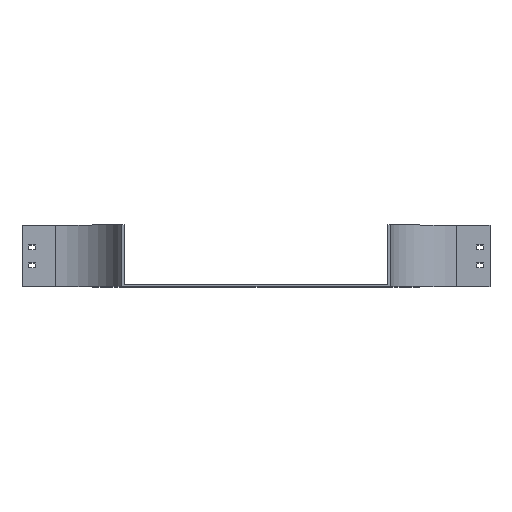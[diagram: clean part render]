
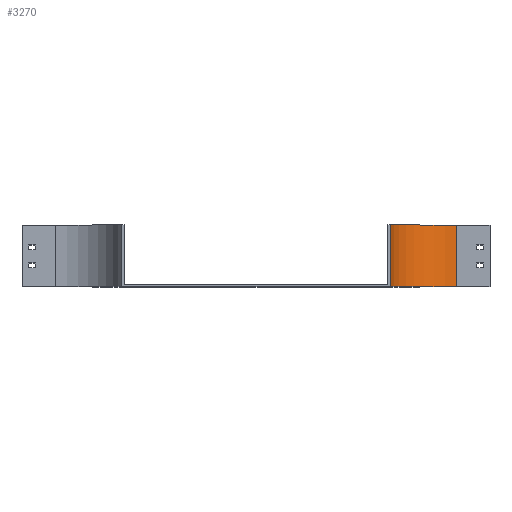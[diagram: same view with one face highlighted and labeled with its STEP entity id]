
A CAD part, top view. The second image highlights one B-rep face of the part: STEP entity #3270.
In plain terms, the highlighted cylindrical face has radius 100 mm (diameter 200 mm), a partial arc.
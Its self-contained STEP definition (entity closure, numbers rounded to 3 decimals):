
#148 = VERTEX_POINT ( 'NONE', #2102 ) ;
#180 = EDGE_CURVE ( 'NONE', #1491, #441, #1556, .T. ) ;
#212 = FACE_OUTER_BOUND ( 'NONE', #931, .T. ) ;
#219 = ORIENTED_EDGE ( 'NONE', *, *, #806, .T. ) ;
#239 = VECTOR ( 'NONE', #2646, 1000. ) ;
#264 = LINE ( 'NONE', #2394, #239 ) ;
#441 = VERTEX_POINT ( 'NONE', #2157 ) ;
#679 = DIRECTION ( 'NONE',  ( 0., -1., 0. ) ) ;
#769 = DIRECTION ( 'NONE',  ( 0., -1., 0. ) ) ;
#806 = EDGE_CURVE ( 'NONE', #148, #1491, #3689, .T. ) ;
#871 = EDGE_CURVE ( 'NONE', #148, #2655, #3384, .T. ) ;
#897 = CARTESIAN_POINT ( 'NONE',  ( -100., 0., 0. ) ) ;
#931 = EDGE_LOOP ( 'NONE', ( #2860, #3570, #2369, #219 ) ) ;
#1086 = CARTESIAN_POINT ( 'NONE',  ( 0., 92.5, -100. ) ) ;
#1399 = CARTESIAN_POINT ( 'NONE',  ( 0., 92.5, 0. ) ) ;
#1491 = VERTEX_POINT ( 'NONE', #897 ) ;
#1556 = CIRCLE ( 'NONE', #2348, 100. ) ;
#1866 = DIRECTION ( 'NONE',  ( 0., 0., -1. ) ) ;
#2102 = CARTESIAN_POINT ( 'NONE',  ( -100., 92.5, 0. ) ) ;
#2157 = CARTESIAN_POINT ( 'NONE',  ( 0., 0., -100. ) ) ;
#2227 = AXIS2_PLACEMENT_3D ( 'NONE', #3456, #769, #2828 ) ;
#2243 = AXIS2_PLACEMENT_3D ( 'NONE', #1399, #3251, #3504 ) ;
#2348 = AXIS2_PLACEMENT_3D ( 'NONE', #3041, #679, #1866 ) ;
#2369 = ORIENTED_EDGE ( 'NONE', *, *, #871, .F. ) ;
#2394 = CARTESIAN_POINT ( 'NONE',  ( 0., 92.5, -100. ) ) ;
#2413 = VECTOR ( 'NONE', #2609, 1000. ) ;
#2609 = DIRECTION ( 'NONE',  ( 0., -1., 0. ) ) ;
#2646 = DIRECTION ( 'NONE',  ( 0., -1., 0. ) ) ;
#2655 = VERTEX_POINT ( 'NONE', #1086 ) ;
#2663 = EDGE_CURVE ( 'NONE', #2655, #441, #264, .T. ) ;
#2828 = DIRECTION ( 'NONE',  ( 0., 0., -1. ) ) ;
#2840 = CYLINDRICAL_SURFACE ( 'NONE', #2243, 100. ) ;
#2860 = ORIENTED_EDGE ( 'NONE', *, *, #180, .T. ) ;
#3041 = CARTESIAN_POINT ( 'NONE',  ( 0., 0., 0. ) ) ;
#3158 = CARTESIAN_POINT ( 'NONE',  ( -100., 92.5, 0. ) ) ;
#3251 = DIRECTION ( 'NONE',  ( 0., -1., 0. ) ) ;
#3270 = ADVANCED_FACE ( 'NONE', ( #212 ), #2840, .F. ) ;
#3384 = CIRCLE ( 'NONE', #2227, 100. ) ;
#3456 = CARTESIAN_POINT ( 'NONE',  ( 0., 92.5, 0. ) ) ;
#3504 = DIRECTION ( 'NONE',  ( 0., 0., -1. ) ) ;
#3570 = ORIENTED_EDGE ( 'NONE', *, *, #2663, .F. ) ;
#3689 = LINE ( 'NONE', #3158, #2413 ) ;
